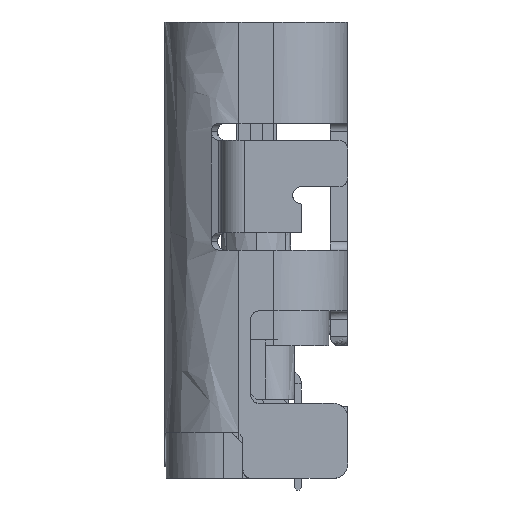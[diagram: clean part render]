
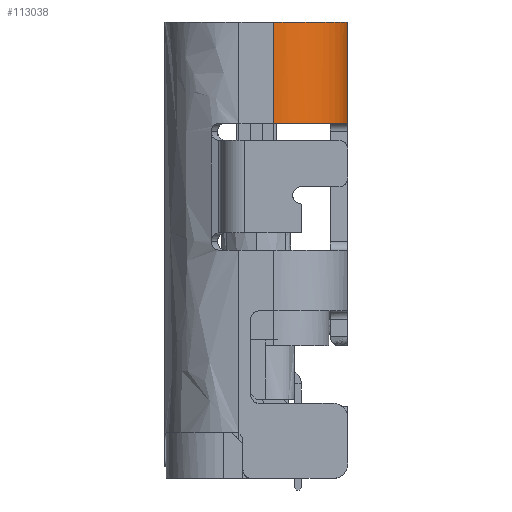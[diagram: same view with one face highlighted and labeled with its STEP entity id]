
A CAD part, front view. The second image highlights one B-rep face of the part: STEP entity #113038.
In plain terms, the highlighted free-form (B-spline) face has degree [1, 3] with [2, 4] control points.
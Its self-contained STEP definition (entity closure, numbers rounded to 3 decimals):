
#5509 = CARTESIAN_POINT ( 'NONE',  ( 0.6, -4.47, 6.4 ) ) ;
#7447 = CARTESIAN_POINT ( 'NONE',  ( 1.35, -4.47, 4.65 ) ) ;
#8506 = CARTESIAN_POINT ( 'NONE',  ( 1.88, -3.19, 4.65 ) ) ;
#13760 = CARTESIAN_POINT ( 'NONE',  ( 1.88, -3.19, 4.65 ) ) ;
#13958 = CARTESIAN_POINT ( 'NONE',  ( 1.88, -3.358, 6.4 ) ) ;
#15038 = CARTESIAN_POINT ( 'NONE',  ( 0.6, -4.47, 6.4 ) ) ;
#29651 = ORIENTED_EDGE ( 'NONE', *, *, #110547, .F. ) ;
#33407 = CARTESIAN_POINT ( 'NONE',  ( 0.6, -4.47, 6.4 ) ) ;
#33804 = CARTESIAN_POINT ( 'NONE',  ( 1.624, -3.977, 4.65 ) ) ;
#33996 = CARTESIAN_POINT ( 'NONE',  ( 1.624, -3.977, 6.4 ) ) ;
#36748 = B_SPLINE_CURVE_WITH_KNOTS ( 'NONE', 1,
 ( #44838, #160867 ),
 .UNSPECIFIED., .F., .F.,
 ( 2, 2 ),
 ( 0., 1. ),
 .UNSPECIFIED. ) ;
#39564 = CARTESIAN_POINT ( 'NONE',  ( 1.88, -3.19, 6.4 ) ) ;
#42266 = B_SPLINE_CURVE_WITH_KNOTS ( 'NONE', 3,
 ( #13760, #48344, #100721, #168810, #33804, #116328, #184432, #85093, #152044, #220110 ),
 .UNSPECIFIED., .F., .F.,
 ( 4, 2, 2, 2, 4 ),
 ( 0., 0.393, 0.785, 1.178, 1.571 ),
 .UNSPECIFIED. ) ;
#43126 = CARTESIAN_POINT ( 'NONE',  ( 1.88, -3.94, 6.4 ) ) ;
#44838 = CARTESIAN_POINT ( 'NONE',  ( 1.88, -3.19, 6.4 ) ) ;
#48344 = CARTESIAN_POINT ( 'NONE',  ( 1.88, -3.358, 4.65 ) ) ;
#57659 = FACE_OUTER_BOUND ( 'NONE', #77473, .T. ) ;
#60932 = CARTESIAN_POINT ( 'NONE',  ( 1.35, -4.47, 6.4 ) ) ;
#75468 = CARTESIAN_POINT ( 'NONE',  ( 0.6, -4.47, 4.65 ) ) ;
#77473 = EDGE_LOOP ( 'NONE', ( #29651, #110328, #113690, #217788 ) ) ;
#81986 = CARTESIAN_POINT ( 'NONE',  ( 1.88, -3.19, 6.4 ) ) ;
#83066 = CARTESIAN_POINT ( 'NONE',  ( 1.245, -4.308, 6.4 ) ) ;
#83666 = VERTEX_POINT ( 'NONE', #125236 ) ;
#85093 = CARTESIAN_POINT ( 'NONE',  ( 0.935, -4.437, 4.65 ) ) ;
#91312 = CARTESIAN_POINT ( 'NONE',  ( 0.6, -4.47, 4.65 ) ) ;
#92188 = CARTESIAN_POINT ( 'NONE',  ( 0.6, -4.47, 6.4 ) ) ;
#100721 = CARTESIAN_POINT ( 'NONE',  ( 1.847, -3.525, 4.65 ) ) ;
#103143 = CARTESIAN_POINT ( 'NONE',  ( 1.847, -3.525, 6.4 ) ) ;
#110328 = ORIENTED_EDGE ( 'NONE', *, *, #112443, .F. ) ;
#110547 = EDGE_CURVE ( 'NONE', #136562, #125767, #140721, .T. ) ;
#112443 = EDGE_CURVE ( 'NONE', #83666, #136562, #166063, .T. ) ;
#113038 = ADVANCED_FACE ( 'NONE', ( #57659 ), #179024, .F. ) ;
#113690 = ORIENTED_EDGE ( 'NONE', *, *, #117580, .F. ) ;
#116328 = CARTESIAN_POINT ( 'NONE',  ( 1.387, -4.214, 4.65 ) ) ;
#117580 = EDGE_CURVE ( 'NONE', #178105, #83666, #42266, .T. ) ;
#119818 = CARTESIAN_POINT ( 'NONE',  ( 0.768, -4.47, 6.4 ) ) ;
#125236 = CARTESIAN_POINT ( 'NONE',  ( 0.6, -4.47, 4.65 ) ) ;
#125767 = VERTEX_POINT ( 'NONE', #39564 ) ;
#136562 = VERTEX_POINT ( 'NONE', #33407 ) ;
#140721 = B_SPLINE_CURVE_WITH_KNOTS ( 'NONE', 3,
 ( #15038, #119818, #153369, #83066, #184633, #33996, #166813, #103143, #13958, #81986 ),
 .UNSPECIFIED., .F., .F.,
 ( 4, 2, 2, 2, 4 ),
 ( 0., 0.393, 0.785, 1.178, 1.571 ),
 .UNSPECIFIED. ) ;
#142409 = CARTESIAN_POINT ( 'NONE',  ( 1.88, -3.19, 6.4 ) ) ;
#148205 = EDGE_CURVE ( 'NONE', #125767, #178105, #36748, .T. ) ;
#152044 = CARTESIAN_POINT ( 'NONE',  ( 0.768, -4.47, 4.65 ) ) ;
#153369 = CARTESIAN_POINT ( 'NONE',  ( 0.935, -4.437, 6.4 ) ) ;
#160288 = CARTESIAN_POINT ( 'NONE',  ( 1.88, -3.94, 4.65 ) ) ;
#160867 = CARTESIAN_POINT ( 'NONE',  ( 1.88, -3.19, 4.65 ) ) ;
#166063 = B_SPLINE_CURVE_WITH_KNOTS ( 'NONE', 1,
 ( #91312, #5509 ),
 .UNSPECIFIED., .F., .F.,
 ( 2, 2 ),
 ( 0., 1. ),
 .UNSPECIFIED. ) ;
#166813 = CARTESIAN_POINT ( 'NONE',  ( 1.718, -3.835, 6.4 ) ) ;
#168810 = CARTESIAN_POINT ( 'NONE',  ( 1.718, -3.835, 4.65 ) ) ;
#178105 = VERTEX_POINT ( 'NONE', #191100 ) ;
#179024 =( BOUNDED_SURFACE ( )  B_SPLINE_SURFACE ( 1, 3, ( 
 ( #142409, #43126, #60932, #92188 ),
 ( #8506, #160288, #7447, #75468 ) ),
 .UNSPECIFIED., .F., .F., .F. ) 
 B_SPLINE_SURFACE_WITH_KNOTS ( ( 2, 2 ),
 ( 4, 4 ),
 ( 0.019, 0.981 ),
 ( 0., 1. ),
 .UNSPECIFIED. ) 
 GEOMETRIC_REPRESENTATION_ITEM ( )  RATIONAL_B_SPLINE_SURFACE ( (
 ( 1., 0.805, 0.805, 1.),
 ( 1., 0.805, 0.805, 1.) ) ) 
 REPRESENTATION_ITEM ( '' )  SURFACE ( )  );
#184432 = CARTESIAN_POINT ( 'NONE',  ( 1.245, -4.308, 4.65 ) ) ;
#184633 = CARTESIAN_POINT ( 'NONE',  ( 1.387, -4.214, 6.4 ) ) ;
#191100 = CARTESIAN_POINT ( 'NONE',  ( 1.88, -3.19, 4.65 ) ) ;
#217788 = ORIENTED_EDGE ( 'NONE', *, *, #148205, .F. ) ;
#220110 = CARTESIAN_POINT ( 'NONE',  ( 0.6, -4.47, 4.65 ) ) ;
